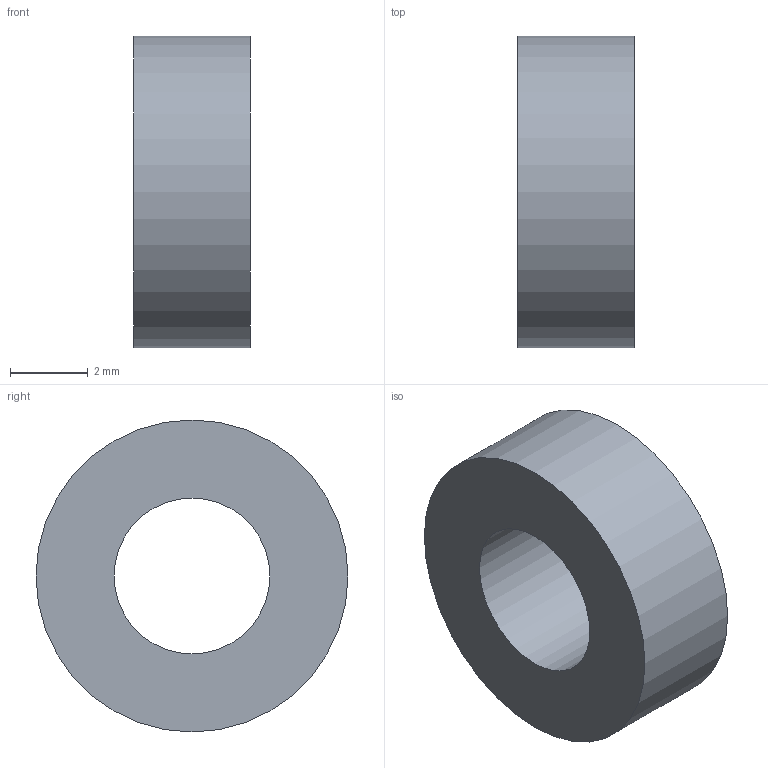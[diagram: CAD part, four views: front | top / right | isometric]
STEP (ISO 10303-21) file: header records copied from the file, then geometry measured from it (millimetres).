
FILE_DESCRIPTION(/* description */ ('STEP AP214'),/* implementation_level */ '2;1');
FILE_NAME(/* name */ 'Mounting Accessory GN 753.2-4-5-3-AO-NI',/* time_stamp */ '2024-12-09T13:59:33+01:00',/* author */ ('License CC BY-ND 4.0'),/* organization */ ('CADENAS'),/* preprocessor_version */ 'ST-DEVELOPER v19.3',/* originating_system */ 'PARTsolutions',/* authorisation */ ' ');
FILE_SCHEMA (('AUTOMOTIVE_DESIGN {1 0 10303 214 3 1 1}'));
Length unit declared in the file: millimetre
Products named in the file (1): Mounting Accessory GN 753.2-4-5-3-AO-NI
Bounding box: 3 x 8 x 8 mm (x, y, z)
Volume: 113.1 mm3; surface area: 188.5 mm2
Topology: 1 solids, 1 shells, 4 faces, 6 edges, 4 vertices
Faces by surface type: plane 2, cylinder 2
Full cylindrical faces by diameter (mm): 4 x1, 8 x1
Entity records: 118 total; most frequent: DIRECTION 18, CARTESIAN_POINT 13, AXIS2_PLACEMENT_3D 9, ORIENTED_EDGE 8, EDGE_LOOP 8, FACE_BOUND 8, EDGE_CURVE 4, VERTEX_POINT 4
